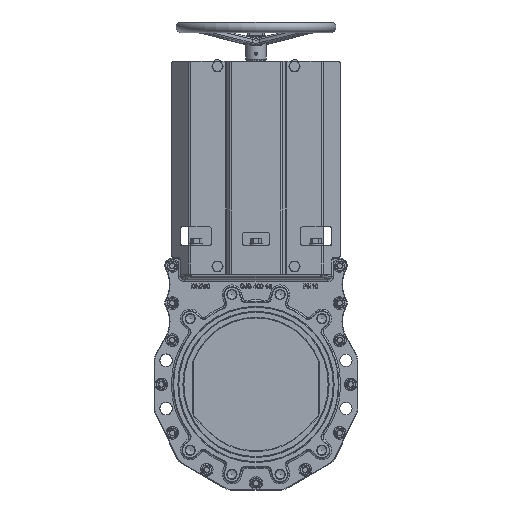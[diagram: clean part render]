
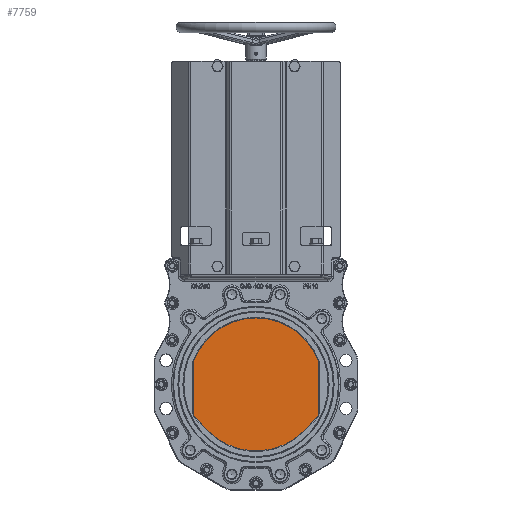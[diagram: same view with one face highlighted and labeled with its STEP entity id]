
A CAD part, top view. The second image highlights one B-rep face of the part: STEP entity #7759.
In plain terms, the highlighted planar face has unit normal (0, 0, 1).
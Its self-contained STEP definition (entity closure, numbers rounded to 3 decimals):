
#5647=PLANE('',#53861);
#7759=ADVANCED_FACE('',(#11541),#5647,.T.);
#11541=FACE_OUTER_BOUND('',#14527,.T.);
#14527=EDGE_LOOP('',(#29598,#29599,#29600,#29601,#29602,#29603,#29604,#29605,
#29606,#29607));
#18235=LINE('',#84782,#21462);
#18236=LINE('',#84786,#21463);
#18237=LINE('',#84790,#21464);
#18238=LINE('',#84794,#21465);
#21462=VECTOR('',#61719,1.);
#21463=VECTOR('',#61722,1.);
#21464=VECTOR('',#61725,1.);
#21465=VECTOR('',#61728,1.);
#29598=ORIENTED_EDGE('',*,*,#45842,.F.);
#29599=ORIENTED_EDGE('',*,*,#45843,.F.);
#29600=ORIENTED_EDGE('',*,*,#45844,.F.);
#29601=ORIENTED_EDGE('',*,*,#45845,.F.);
#29602=ORIENTED_EDGE('',*,*,#45846,.F.);
#29603=ORIENTED_EDGE('',*,*,#45847,.F.);
#29604=ORIENTED_EDGE('',*,*,#45848,.F.);
#29605=ORIENTED_EDGE('',*,*,#45849,.F.);
#29606=ORIENTED_EDGE('',*,*,#45850,.F.);
#29607=ORIENTED_EDGE('',*,*,#45851,.F.);
#39971=VERTEX_POINT('',#84776);
#39972=VERTEX_POINT('',#84777);
#39973=VERTEX_POINT('',#84779);
#39974=VERTEX_POINT('',#84781);
#39975=VERTEX_POINT('',#84783);
#39976=VERTEX_POINT('',#84785);
#39977=VERTEX_POINT('',#84787);
#39978=VERTEX_POINT('',#84789);
#39979=VERTEX_POINT('',#84791);
#39980=VERTEX_POINT('',#84793);
#45842=EDGE_CURVE('',#39971,#39972,#50809,.T.);
#45843=EDGE_CURVE('',#39973,#39971,#50810,.T.);
#45844=EDGE_CURVE('',#39974,#39973,#50811,.T.);
#45845=EDGE_CURVE('',#39975,#39974,#18235,.T.);
#45846=EDGE_CURVE('',#39976,#39975,#50812,.T.);
#45847=EDGE_CURVE('',#39977,#39976,#18236,.T.);
#45848=EDGE_CURVE('',#39978,#39977,#50813,.T.);
#45849=EDGE_CURVE('',#39979,#39978,#18237,.T.);
#45850=EDGE_CURVE('',#39980,#39979,#50814,.T.);
#45851=EDGE_CURVE('',#39972,#39980,#18238,.T.);
#50809=CIRCLE('',#53855,10.);
#50810=CIRCLE('',#53856,125.);
#50811=CIRCLE('',#53857,10.);
#50812=CIRCLE('',#53858,10.);
#50813=CIRCLE('',#53859,125.);
#50814=CIRCLE('',#53860,10.);
#53855=AXIS2_PLACEMENT_3D('',#84775,#61713,#61714);
#53856=AXIS2_PLACEMENT_3D('',#84778,#61715,#61716);
#53857=AXIS2_PLACEMENT_3D('',#84780,#61717,#61718);
#53858=AXIS2_PLACEMENT_3D('',#84784,#61720,#61721);
#53859=AXIS2_PLACEMENT_3D('',#84788,#61723,#61724);
#53860=AXIS2_PLACEMENT_3D('',#84792,#61726,#61727);
#53861=AXIS2_PLACEMENT_3D('',#84795,#61729,#61730);
#61713=DIRECTION('',(0.,0.,-1.));
#61714=DIRECTION('',(1.,0.,0.));
#61715=DIRECTION('',(0.,0.,-1.));
#61716=DIRECTION('',(1.,0.,0.));
#61717=DIRECTION('',(0.,0.,-1.));
#61718=DIRECTION('',(1.,0.,0.));
#61719=DIRECTION('',(0.,1.,0.));
#61720=DIRECTION('',(0.,0.,-1.));
#61721=DIRECTION('',(1.,0.,0.));
#61722=DIRECTION('',(-0.707,0.707,0.));
#61723=DIRECTION('',(0.,0.,-1.));
#61724=DIRECTION('',(1.,0.,0.));
#61725=DIRECTION('',(-0.707,-0.707,0.));
#61726=DIRECTION('',(0.,0.,-1.));
#61727=DIRECTION('',(1.,0.,0.));
#61728=DIRECTION('',(0.,-1.,0.));
#61729=DIRECTION('',(0.,0.,1.));
#61730=DIRECTION('',(1.,0.,0.));
#84775=CARTESIAN_POINT('',(107.5,40.85,5.));
#84776=CARTESIAN_POINT('',(116.848,44.403,5.));
#84777=CARTESIAN_POINT('',(117.5,40.85,5.));
#84778=CARTESIAN_POINT('',(0.,0.,5.));
#84779=CARTESIAN_POINT('',(-116.848,44.403,5.));
#84780=CARTESIAN_POINT('',(-107.5,40.85,5.));
#84781=CARTESIAN_POINT('',(-117.5,40.85,5.));
#84782=CARTESIAN_POINT('',(-117.5,42.647,5.));
#84783=CARTESIAN_POINT('',(-117.5,-55.135,5.));
#84784=CARTESIAN_POINT('',(-107.5,-55.135,5.));
#84785=CARTESIAN_POINT('',(-114.571,-62.206,5.));
#84786=CARTESIAN_POINT('',(-117.5,-59.277,5.));
#84787=CARTESIAN_POINT('',(-88.388,-88.388,5.));
#84788=CARTESIAN_POINT('',(0.,0.,5.));
#84789=CARTESIAN_POINT('',(88.388,-88.388,5.));
#84790=CARTESIAN_POINT('',(88.388,-88.388,5.));
#84791=CARTESIAN_POINT('',(114.571,-62.206,5.));
#84792=CARTESIAN_POINT('',(107.5,-55.135,5.));
#84793=CARTESIAN_POINT('',(117.5,-55.135,5.));
#84794=CARTESIAN_POINT('',(117.5,-59.277,5.));
#84795=CARTESIAN_POINT('',(0.,118.483,5.));
